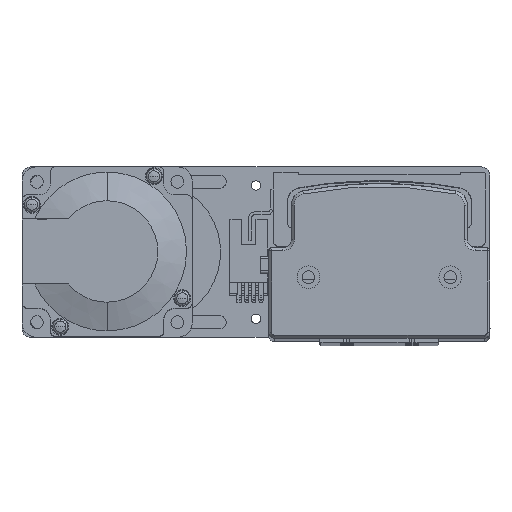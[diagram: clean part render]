
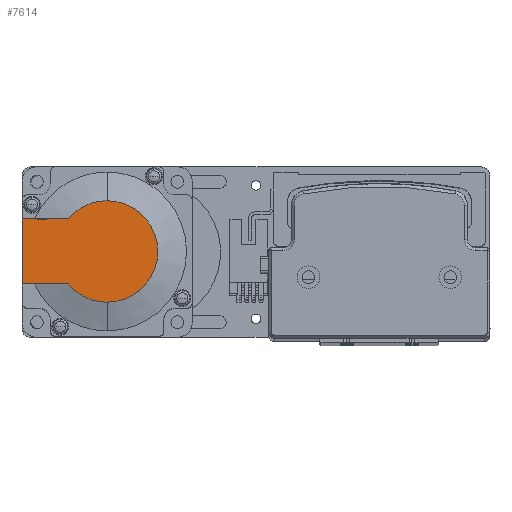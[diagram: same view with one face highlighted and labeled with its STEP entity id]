
A CAD part, top view. The second image highlights one B-rep face of the part: STEP entity #7614.
In plain terms, the highlighted planar face has unit normal (0, 0, 1) as drawn and (-1, 0, 0) by its records, which use the part's own axes.
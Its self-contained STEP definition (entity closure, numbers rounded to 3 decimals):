
#216 = DIRECTION ( 'NONE',  ( 0., 0., -1. ) ) ;
#2356 = VECTOR ( 'NONE', #14057, 1000. ) ;
#2362 = LINE ( 'NONE', #24470, #21443 ) ;
#2564 = ORIENTED_EDGE ( 'NONE', *, *, #29319, .T. ) ;
#3002 = VERTEX_POINT ( 'NONE', #40417 ) ;
#3725 = ORIENTED_EDGE ( 'NONE', *, *, #13995, .T. ) ;
#3997 = VERTEX_POINT ( 'NONE', #31537 ) ;
#4420 = ORIENTED_EDGE ( 'NONE', *, *, #19159, .T. ) ;
#5012 = CARTESIAN_POINT ( 'NONE',  ( -118.5, 30., 11.45 ) ) ;
#5398 = ORIENTED_EDGE ( 'NONE', *, *, #11439, .F. ) ;
#7614 = ADVANCED_FACE ( 'NONE', ( #37034 ), #16459, .T. ) ;
#9009 = DIRECTION ( 'NONE',  ( -1., 0., 0. ) ) ;
#9883 = CIRCLE ( 'NONE', #41648, 17.881 ) ;
#11439 = EDGE_CURVE ( 'NONE', #45163, #24607, #22599, .T. ) ;
#11827 = DIRECTION ( 'NONE',  ( -1., 0., 0. ) ) ;
#13995 = EDGE_CURVE ( 'NONE', #3002, #3997, #27746, .T. ) ;
#14057 = DIRECTION ( 'NONE',  ( 0., 0., 1. ) ) ;
#15574 = VECTOR ( 'NONE', #32286, 1000. ) ;
#16459 = PLANE ( 'NONE',  #45526 ) ;
#16798 = LINE ( 'NONE', #28446, #15574 ) ;
#19159 = EDGE_CURVE ( 'NONE', #3997, #26568, #9883, .T. ) ;
#20439 = ORIENTED_EDGE ( 'NONE', *, *, #40108, .T. ) ;
#21443 = VECTOR ( 'NONE', #28357, 1000. ) ;
#22599 = LINE ( 'NONE', #40846, #2356 ) ;
#22645 = DIRECTION ( 'NONE',  ( -1., 0., 0. ) ) ;
#23075 = DIRECTION ( 'NONE',  ( -1., 0., 0. ) ) ;
#23875 = CARTESIAN_POINT ( 'NONE',  ( -118.5, 30., -11.45 ) ) ;
#24470 = CARTESIAN_POINT ( 'NONE',  ( -118.5, -8.941, -11.45 ) ) ;
#24607 = VERTEX_POINT ( 'NONE', #5012 ) ;
#26568 = VERTEX_POINT ( 'NONE', #26928 ) ;
#26753 = ORIENTED_EDGE ( 'NONE', *, *, #33038, .F. ) ;
#26928 = CARTESIAN_POINT ( 'NONE',  ( -118.5, 0., 17.881 ) ) ;
#27746 = CIRCLE ( 'NONE', #47223, 17.881 ) ;
#28357 = DIRECTION ( 'NONE',  ( 0., -1., 0. ) ) ;
#28446 = CARTESIAN_POINT ( 'NONE',  ( -118.5, 0., 11.45 ) ) ;
#29319 = EDGE_CURVE ( 'NONE', #45163, #3002, #2362, .T. ) ;
#30059 = CIRCLE ( 'NONE', #30992, 17.881 ) ;
#30992 = AXIS2_PLACEMENT_3D ( 'NONE', #45560, #22645, #49368 ) ;
#31537 = CARTESIAN_POINT ( 'NONE',  ( -118.5, 0., -17.881 ) ) ;
#31873 = CARTESIAN_POINT ( 'NONE',  ( -118.5, -8.941, 0. ) ) ;
#32286 = DIRECTION ( 'NONE',  ( 0., -1., 0. ) ) ;
#33038 = EDGE_CURVE ( 'NONE', #24607, #44539, #16798, .T. ) ;
#34705 = CARTESIAN_POINT ( 'NONE',  ( -118.5, 0., 0. ) ) ;
#35706 = DIRECTION ( 'NONE',  ( 0., 0., 1. ) ) ;
#37034 = FACE_OUTER_BOUND ( 'NONE', #44307, .T. ) ;
#37521 = CARTESIAN_POINT ( 'NONE',  ( -118.5, 13.735, 11.45 ) ) ;
#38557 = DIRECTION ( 'NONE',  ( 0., 0., -1. ) ) ;
#40108 = EDGE_CURVE ( 'NONE', #26568, #44539, #30059, .T. ) ;
#40417 = CARTESIAN_POINT ( 'NONE',  ( -118.5, 13.735, -11.45 ) ) ;
#40846 = CARTESIAN_POINT ( 'NONE',  ( -118.5, 30., 25. ) ) ;
#41648 = AXIS2_PLACEMENT_3D ( 'NONE', #34705, #11827, #38557 ) ;
#44307 = EDGE_LOOP ( 'NONE', ( #2564, #3725, #4420, #20439, #26753, #5398 ) ) ;
#44539 = VERTEX_POINT ( 'NONE', #37521 ) ;
#45163 = VERTEX_POINT ( 'NONE', #23875 ) ;
#45526 = AXIS2_PLACEMENT_3D ( 'NONE', #31873, #9009, #35706 ) ;
#45560 = CARTESIAN_POINT ( 'NONE',  ( -118.5, 0., 0. ) ) ;
#45994 = CARTESIAN_POINT ( 'NONE',  ( -118.5, 0., 0. ) ) ;
#47223 = AXIS2_PLACEMENT_3D ( 'NONE', #45994, #23075, #216 ) ;
#49368 = DIRECTION ( 'NONE',  ( 0., 0., -1. ) ) ;
